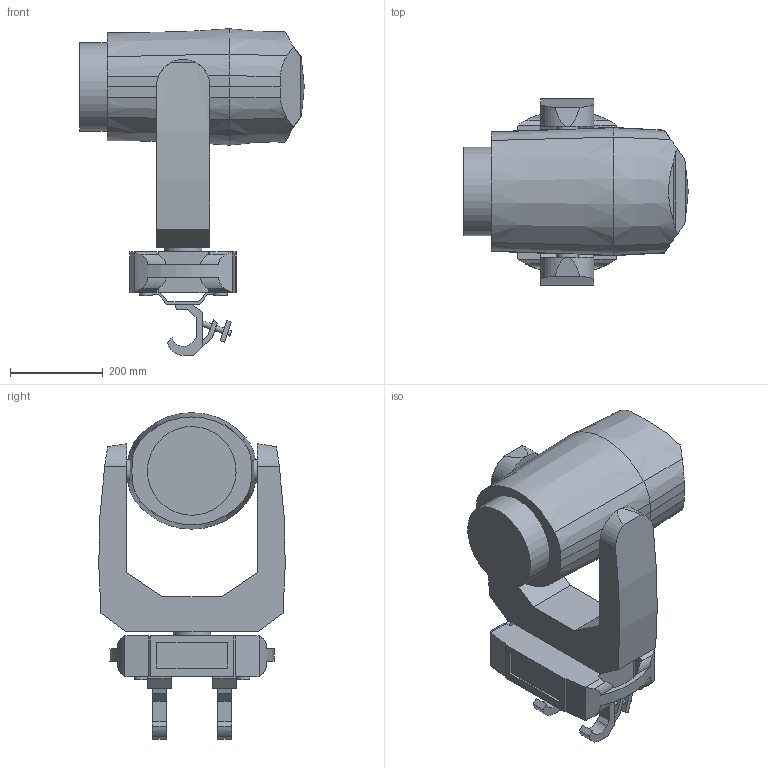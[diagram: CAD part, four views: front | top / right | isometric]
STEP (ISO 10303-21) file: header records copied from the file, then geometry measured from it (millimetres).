
FILE_DESCRIPTION(/* description */ ('Unknown'),/* implementation_level */ '2;1');
FILE_NAME(/* name */ '3D_RSS',/* time_stamp */ '2018-09-17T15:19:34+02:00',/* author */ ('Unknown'),/* organization */ ('Unknown'),/* preprocessor_version */ 'ST-DEVELOPER v16.7',/* originating_system */ 'DEX',/* authorisation */ $);
FILE_SCHEMA (('AUTOMOTIVE_DESIGN {1 0 10303 214 3 1 1}'));
Length unit declared in the file: millimetre
Products named in the file (7): 3D_RSS; Base; RSS_Arm; RSS_Head; Omega_SlimClamp; Omega+SlimClamp; Clamp Doughty Slimline QT
Assembly tree (7 placements, depth 3):
  3D_RSS
    Base
    RSS_Arm
    RSS_Head
    Omega_SlimClamp  x2
      Omega+SlimClamp
      Clamp Doughty Slimline QT
Bounding box: 483.12 x 401.22 x 702.73 mm (x, y, z)
Volume: 36830717.7 mm3; surface area: 1209364.4 mm2
Topology: 7 solids, 7 shells, 234 faces, 606 edges, 401 vertices
Faces by surface type: plane 168, cylinder 54, cone 12
Full cylindrical faces by diameter (mm): 9.5 x1, 10.2 x3, 11 x4, 12 x8, 13 x2, 22.5 x2, 29.415 x4, 45.109 x1, 48 x1, 80 x1, 190.803 x1
Entity records: 5741 total; most frequent: CARTESIAN_POINT 1151, DIRECTION 912, ORIENTED_EDGE 884, EDGE_CURVE 442, AXIS2_PLACEMENT_3D 310, VERTEX_POINT 301, LINE 292, VECTOR 292
